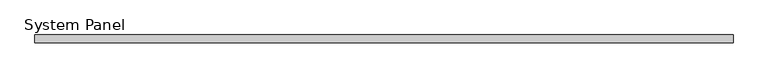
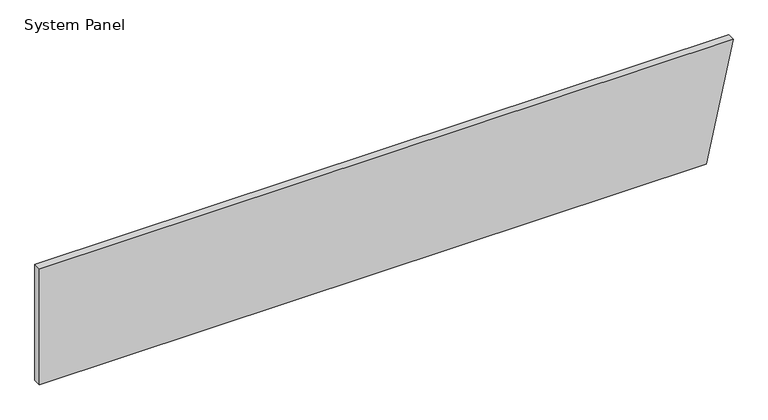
"""IFC4 building model written with IfcOpenShell, lengths in millimetres: plate geometry, System Panel : Equitilt_FlameGuard_75mm_Plain_Surfmist."""

import ifcopenshell
import ifcopenshell.guid

model = None  # the IFC model being written
_history = None  # IfcOwnerHistory: only IFC2X3 demands one
_inside = {}  # id of a spatial element -> (the spatial element, [elements in it])
_under = {}  # id of a project, library or spatial element -> (it, [spatial elements below it])
_declared = {}  # id of a project -> (the project, [libraries it declares])
_typed = {}  # id of a type object -> (the type object, [elements of that type])
_made_of = {}  # id of a material, layer set ... -> (it, [elements and type objects made of it])


def new_model(schema):
    """Start an empty IFC model of exactly this schema.

    Asked for "IFC4X3", IfcOpenShell would pick the latest addendum, in which some entities
    have other attributes; the version numbers below select the first issue.
    IFC2X3 requires an IfcOwnerHistory on every rooted entity: one is made here for all.
    """
    global model, _history
    if schema == "IFC4X3":
        model = ifcopenshell.file(schema_version=(4, 3, 0, 0))
    else:
        model = ifcopenshell.file(schema=schema)
    _inside.clear()
    _under.clear()
    _declared.clear()
    _typed.clear()
    _made_of.clear()
    _history = None
    if model.schema == "IFC2X3":
        org = make("IfcOrganization", Name="unknown")
        user = make(
            "IfcPersonAndOrganization",
            ThePerson=make("IfcPerson", FamilyName="unknown"),
            TheOrganization=org,
        )
        app = make(
            "IfcApplication",
            ApplicationDeveloper=org,
            Version="unknown",
            ApplicationFullName="unknown",
            ApplicationIdentifier="unknown",
        )
        _history = make(
            "IfcOwnerHistory",
            OwningUser=user,
            OwningApplication=app,
            ChangeAction="ADDED",
            CreationDate=0,
        )
    return model


def make(cls, **values):
    """One entity of the class cls with the attributes given. An attribute that is None is left unset."""
    return model.create_entity(
        cls, **{name: value for name, value in values.items() if value is not None}
    )


def rooted(cls, **values):
    """An entity with a GlobalId (a new one), such as an element, a storey or a relation."""
    return make(cls, GlobalId=ifcopenshell.guid.new(), OwnerHistory=_history, **values)


def si_unit(unit_type, name, prefix=None):
    """IfcSIUnit, for example si_unit("LENGTHUNIT", "METRE", prefix="MILLI")."""
    return make("IfcSIUnit", UnitType=unit_type, Prefix=prefix, Name=name)


def assignment(units):
    """IfcUnitAssignment: the units of a project."""
    return None if units is None else make("IfcUnitAssignment", Units=units)


def point(xyz):
    """IfcCartesianPoint."""
    return None if xyz is None else make("IfcCartesianPoint", Coordinates=xyz)


def direction(xyz):
    """IfcDirection."""
    return None if xyz is None else make("IfcDirection", DirectionRatios=xyz)


def frame(location, z_axis=None, x_axis=None):
    """IfcAxis2Placement3D, a coordinate frame: its origin and axes. An axis left out is left unset."""
    return make(
        "IfcAxis2Placement3D",
        Location=point(location),
        Axis=direction(z_axis),
        RefDirection=direction(x_axis),
    )


def origin():
    """The frame at (0, 0, 0) with its axes left unset."""
    return frame((0.0, 0.0, 0.0))


def place(relative_to, where):
    """IfcLocalPlacement: puts the frame where relative to a parent placement (None: the world)."""
    return make(
        "IfcLocalPlacement", PlacementRelTo=relative_to, RelativePlacement=where
    )


def context(
    kind, dimensions, precision=None, world=None, true_north=None, identifier=None
):
    """IfcGeometricRepresentationContext, for example the 3D "Model" context."""
    return make(
        "IfcGeometricRepresentationContext",
        ContextIdentifier=identifier,
        ContextType=kind,
        CoordinateSpaceDimension=dimensions,
        Precision=precision,
        WorldCoordinateSystem=world,
        TrueNorth=true_north,
    )


def project(units=None, contexts=None):
    """IfcProject with its units and contexts."""
    return rooted(
        "IfcProject",
        Name="project",
        RepresentationContexts=contexts,
        UnitsInContext=assignment(units),
    )


def spatial(cls, under=None, at=None, **own):
    """A site, building, storey or space (cls), placed at a placement, below another one or the project."""
    s = rooted(cls, ObjectPlacement=at, **own)
    if under is not None:
        _under.setdefault(under.id(), (under, []))[1].append(s)
    return s


def polyline(points):
    """IfcPolyline through the points."""
    return make("IfcPolyline", Points=[point(p) for p in points])


def outline(outer, holes=None, kind="AREA"):
    """IfcArbitraryClosedProfileDef: a profile drawn as a closed curve; with holes, ...WithVoids."""
    if holes is None:
        return make("IfcArbitraryClosedProfileDef", ProfileType=kind, OuterCurve=outer)
    return make(
        "IfcArbitraryProfileDefWithVoids",
        ProfileType=kind,
        OuterCurve=outer,
        InnerCurves=holes,
    )


def extrude(swept, where, along, depth):
    """IfcExtrudedAreaSolid: the profile swept, set in the frame where, extruded along a direction by depth."""
    return make(
        "IfcExtrudedAreaSolid",
        SweptArea=swept,
        Position=where,
        ExtrudedDirection=direction(along),
        Depth=depth,
    )


def shape(context_of_items, identifier, shape_type, items):
    """IfcShapeRepresentation: the items that make up one representation, for example the "Body"."""
    return make(
        "IfcShapeRepresentation",
        ContextOfItems=context_of_items,
        RepresentationIdentifier=identifier,
        RepresentationType=shape_type,
        Items=items,
    )


def source(mapping_origin, context_of_items, identifier, shape_type, items):
    """IfcRepresentationMap: a shape defined once, which mapped items show again and again."""
    return make(
        "IfcRepresentationMap",
        MappingOrigin=mapping_origin,
        MappedRepresentation=shape(context_of_items, identifier, shape_type, items),
    )


def transform(
    local_origin,
    x_axis=None,
    y_axis=None,
    z_axis=None,
    scale=None,
    scale2=None,
    scale3=None,
    uniform=True,
):
    """IfcCartesianTransformationOperator3D, or its non-uniform kind. x_axis, y_axis, z_axis: its Axis1, 2, 3."""
    if uniform:
        return make(
            "IfcCartesianTransformationOperator3D",
            Axis1=direction(x_axis),
            Axis2=direction(y_axis),
            LocalOrigin=point(local_origin),
            Scale=scale,
            Axis3=direction(z_axis),
        )
    return make(
        "IfcCartesianTransformationOperator3DnonUniform",
        Axis1=direction(x_axis),
        Axis2=direction(y_axis),
        LocalOrigin=point(local_origin),
        Scale=scale,
        Axis3=direction(z_axis),
        Scale2=scale2,
        Scale3=scale3,
    )


def mapped(mapping_source, mapping_target):
    """IfcMappedItem: shows the shape of a source again, moved by a transform."""
    return make(
        "IfcMappedItem", MappingSource=mapping_source, MappingTarget=mapping_target
    )


def made_of(thing, what):
    """Note that an element or type object is made of a material, layer set ...; save() writes the relation."""
    if what is not None:
        _made_of.setdefault(what.id(), (what, []))[1].append(thing)
    return thing


def element(
    cls,
    number,
    at=None,
    inside=None,
    cuts=None,
    type_object=None,
    material=None,
    context=None,
    identifier="Body",
    shape_type=None,
    held_by="IfcProductDefinitionShape",
    body=None,
    shapes=None,
    **own,
):
    """One element of the class cls, such as IfcWall. Its Tag is "e" and its number.

    at: its placement. inside: the storey or other place that contains it. cuts: it is an
    opening in that element (IfcRelVoidsElement). A single representation is given by context,
    identifier, shape_type and body (its items); several are given by shapes. held_by: the class
    of the entity that holds the representations. save() writes the other relations.
    """
    e = rooted(cls, Tag="e%d" % number, ObjectPlacement=at, **own)
    if body is not None:
        shapes = [shape(context, identifier, shape_type, body)]
    if shapes is not None:
        e.Representation = make(held_by, Representations=shapes)
    if inside is not None:
        _inside.setdefault(inside.id(), (inside, []))[1].append(e)
    if cuts is not None:
        rooted(
            "IfcRelVoidsElement", RelatingBuildingElement=cuts, RelatedOpeningElement=e
        )
    if type_object is not None:
        _typed.setdefault(type_object.id(), (type_object, []))[1].append(e)
    return made_of(e, material)


def aggregate(whole, parts):
    """IfcRelAggregates: a whole, such as a stair, and the parts it consists of."""
    return rooted("IfcRelAggregates", RelatingObject=whole, RelatedObjects=parts)


def save(model, path):
    """Write the relations noted so far, then the file.

    IfcRelAggregates (storeys below a building ...), IfcRelContainedInSpatialStructure (elements
    in a storey), IfcRelDefinesByType, IfcRelAssociatesMaterial and IfcRelDeclares: one each for
    every whole, place, type object, material and project.
    """
    for whole, parts in _under.values():
        aggregate(whole, parts)
    for where, things in _inside.values():
        rooted(
            "IfcRelContainedInSpatialStructure",
            RelatedElements=things,
            RelatingStructure=where,
        )
    for kind, things in _typed.values():
        rooted("IfcRelDefinesByType", RelatedObjects=things, RelatingType=kind)
    for what, things in _made_of.values():
        rooted("IfcRelAssociatesMaterial", RelatedObjects=things, RelatingMaterial=what)
    for by, libraries in _declared.values():
        rooted("IfcRelDeclares", RelatingContext=by, RelatedDefinitions=libraries)
    model.write(path)


def system_panel_39dc967e(model_context):
    return source(origin(), model_context, "Body", "SweptSolid", [
        extrude(outline(polyline([(0.0, -3386.3074928), (0.0, 3125.4358309), (1200.0, 3386.3074928), (1200.0, -3386.3074928), (0.0, -3386.3074928)])), frame((0.0, -75.0, 0.0), z_axis=(0.0, 1.0, 0.0), x_axis=(0.0, 0.0, 1.0)), (0.0, 0.0, 1.0), 75.0),
    ])


if __name__ == "__main__":
    model = new_model("IFC4")
    model_context = context("Model", 3, world=origin())
    ifc_project = project(units=[si_unit("LENGTHUNIT", "METRE", prefix="MILLI")], contexts=[model_context])
    site = spatial("IfcSite", under=ifc_project)
    building = spatial("IfcBuilding", under=site)
    placement = place(None, origin())
    system_panel_shape = system_panel_39dc967e(model_context)
    element("IfcPlate", 1, ObjectType="System Panel : Equitilt_FlameGuard_75mm_Plain_Surfmist", at=placement, inside=building, context=model_context, shape_type="MappedRepresentation", body=[
        mapped(system_panel_shape, transform((0.0, 0.0, 0.0), x_axis=(1.0, 0.0, 0.0), y_axis=(0.0, 1.0, 0.0), z_axis=(0.0, 0.0, 1.0))),
    ])
    save(model, "model.ifc")
